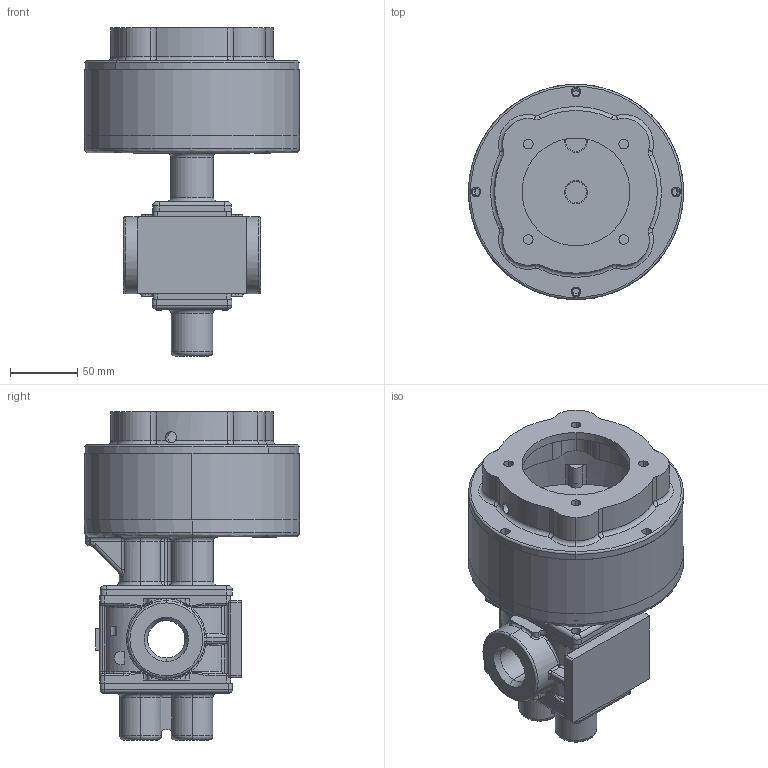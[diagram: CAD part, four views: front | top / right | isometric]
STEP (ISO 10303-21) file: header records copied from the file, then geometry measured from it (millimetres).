
FILE_DESCRIPTION (( 'STEP AP214' ), '1' );
FILE_NAME ('GMC8 FNPT IEC80 NO MOTOR.STEP', '2025-10-02T12:43:16', ( '' ), ( '' ), 'SwSTEP 2.0', 'SolidWorks 2024', '' );
FILE_SCHEMA (( 'AUTOMOTIVE_DESIGN' ));
Length unit declared in the file: inch
Products named in the file (1): GMC8 FNPT IEC80 NO MOTOR
Bounding box: 159.51 x 159.51 x 243.28 mm (x, y, z)
Volume: 981663.1 mm3; surface area: 278644.7 mm2
Topology: 12 solids, 12 shells, 1871 faces, 4921 edges, 3163 vertices
Faces by surface type: plane 856, cylinder 405, bspline 396, torus 128, cone 57, sphere 29
Entity records: 77046 total; most frequent: CARTESIAN_POINT 32973, ORIENTED_EDGE 9810, DIRECTION 7957, EDGE_CURVE 4905, VERTEX_POINT 3163, VECTOR 2807, LINE 2807, AXIS2_PLACEMENT_3D 2575
